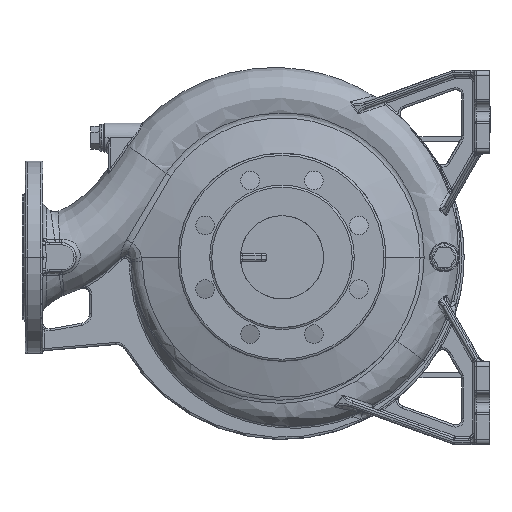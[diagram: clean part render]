
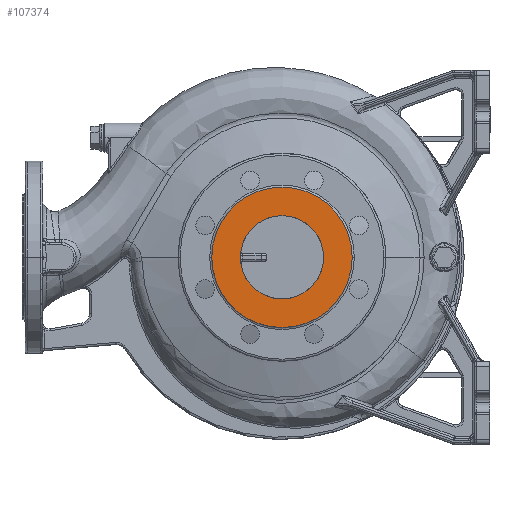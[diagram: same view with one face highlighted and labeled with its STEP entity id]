
A CAD part, front view. The second image highlights one B-rep face of the part: STEP entity #107374.
In plain terms, the highlighted planar face has unit normal (0, -1, 0).
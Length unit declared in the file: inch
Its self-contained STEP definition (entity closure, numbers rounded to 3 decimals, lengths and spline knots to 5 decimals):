
#1360 = DIRECTION ( 'NONE',  ( -1., 0., 0. ) ) ;
#16753 = AXIS2_PLACEMENT_3D ( 'NONE', #131449, #86038, #24505 ) ;
#21489 = AXIS2_PLACEMENT_3D ( 'NONE', #124449, #138601, #1360 ) ;
#22862 = CARTESIAN_POINT ( 'NONE',  ( 1.5748, -9.92126, 0. ) ) ;
#24240 = CIRCLE ( 'NONE', #91975, 1.5748 ) ;
#24505 = DIRECTION ( 'NONE',  ( 1., 0., 0. ) ) ;
#29090 = CARTESIAN_POINT ( 'NONE',  ( 0., -9.92126, 0. ) ) ;
#51834 = EDGE_LOOP ( 'NONE', ( #197016, #77824 ) ) ;
#61533 = DIRECTION ( 'NONE',  ( -1., 0., 0. ) ) ;
#64881 = EDGE_LOOP ( 'NONE', ( #140066, #116736 ) ) ;
#71782 = EDGE_CURVE ( 'NONE', #182053, #150273, #189484, .T. ) ;
#74289 = CARTESIAN_POINT ( 'NONE',  ( -1.5748, -9.92126, 0. ) ) ;
#77824 = ORIENTED_EDGE ( 'NONE', *, *, #71782, .T. ) ;
#86038 = DIRECTION ( 'NONE',  ( 0., 1., 0. ) ) ;
#89314 = CARTESIAN_POINT ( 'NONE',  ( 2.65748, -9.92126, 0. ) ) ;
#91975 = AXIS2_PLACEMENT_3D ( 'NONE', #106946, #153355, #61533 ) ;
#98470 = EDGE_CURVE ( 'NONE', #142522, #173280, #153586, .T. ) ;
#103561 = AXIS2_PLACEMENT_3D ( 'NONE', #157066, #108680, #171216 ) ;
#106946 = CARTESIAN_POINT ( 'NONE',  ( 0., -9.92126, 0. ) ) ;
#107374 = ADVANCED_FACE ( 'NONE', ( #175856, #114295 ), #116309, .F. ) ;
#108680 = DIRECTION ( 'NONE',  ( 0., 1., 0. ) ) ;
#114295 = FACE_BOUND ( 'NONE', #64881, .T. ) ;
#116309 = PLANE ( 'NONE',  #16753 ) ;
#116736 = ORIENTED_EDGE ( 'NONE', *, *, #124541, .T. ) ;
#124449 = CARTESIAN_POINT ( 'NONE',  ( 0., -9.92126, 0. ) ) ;
#124541 = EDGE_CURVE ( 'NONE', #142522, #173280, #24240, .T. ) ;
#126184 = CIRCLE ( 'NONE', #103561, 2.65748 ) ;
#131449 = CARTESIAN_POINT ( 'NONE',  ( 0., -9.92126, 0. ) ) ;
#138601 = DIRECTION ( 'NONE',  ( 0., -1., 0. ) ) ;
#139999 = DIRECTION ( 'NONE',  ( 0., -1., 0. ) ) ;
#140066 = ORIENTED_EDGE ( 'NONE', *, *, #98470, .F. ) ;
#142522 = VERTEX_POINT ( 'NONE', #74289 ) ;
#144418 = AXIS2_PLACEMENT_3D ( 'NONE', #29090, #139999, #184442 ) ;
#145442 = CARTESIAN_POINT ( 'NONE',  ( -2.65748, -9.92126, 0. ) ) ;
#150273 = VERTEX_POINT ( 'NONE', #89314 ) ;
#153355 = DIRECTION ( 'NONE',  ( 0., 1., 0. ) ) ;
#153586 = CIRCLE ( 'NONE', #21489, 1.5748 ) ;
#157066 = CARTESIAN_POINT ( 'NONE',  ( 0., -9.92126, 0. ) ) ;
#171216 = DIRECTION ( 'NONE',  ( -1., 0., 0. ) ) ;
#173280 = VERTEX_POINT ( 'NONE', #22862 ) ;
#175856 = FACE_OUTER_BOUND ( 'NONE', #51834, .T. ) ;
#182053 = VERTEX_POINT ( 'NONE', #145442 ) ;
#184442 = DIRECTION ( 'NONE',  ( -1., 0., 0. ) ) ;
#189484 = CIRCLE ( 'NONE', #144418, 2.65748 ) ;
#191399 = EDGE_CURVE ( 'NONE', #182053, #150273, #126184, .T. ) ;
#197016 = ORIENTED_EDGE ( 'NONE', *, *, #191399, .F. ) ;
